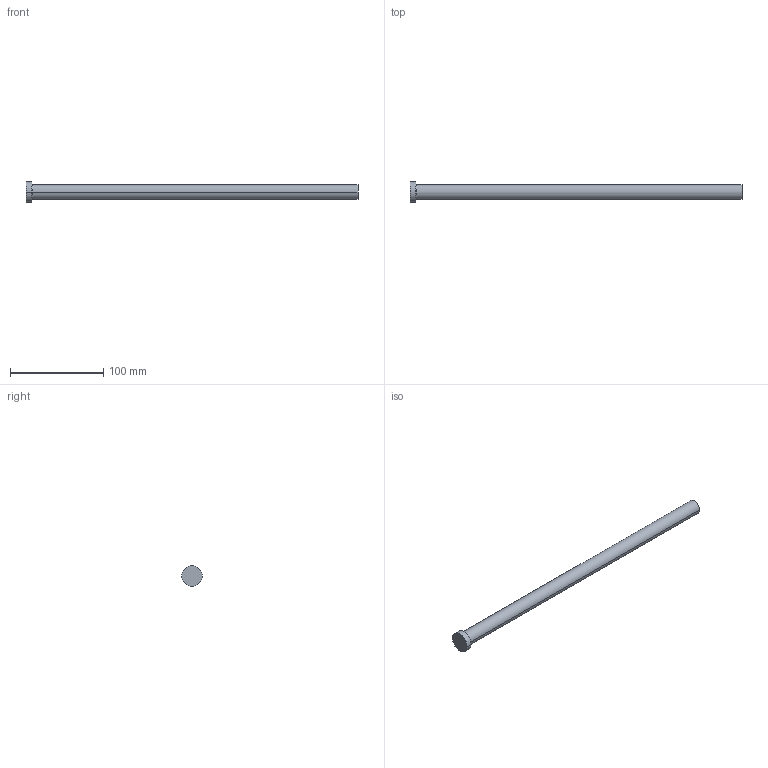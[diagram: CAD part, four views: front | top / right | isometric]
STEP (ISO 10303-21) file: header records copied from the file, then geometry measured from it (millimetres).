
FILE_DESCRIPTION (( 'STEP AP214' ), '1' );
FILE_NAME ('P37-14.STEP', '2020-03-12T12:07:12', ( '' ), ( '' ), 'SwSTEP 2.0', 'SolidWorks 2018', '' );
FILE_SCHEMA (( 'AUTOMOTIVE_DESIGN' ));
Length unit declared in the file: inch
Products named in the file (1): P37-14
Bounding box: 355.6 x 22.23 x 22.23 mm (x, y, z)
Volume: 71486.5 mm3; surface area: 18599 mm2
Topology: 1 solids, 1 shells, 13 faces, 24 edges, 14 vertices
Faces by surface type: cone 4, cylinder 4, plane 3, torus 2
Entity records: 366 total; most frequent: DIRECTION 68, CARTESIAN_POINT 52, ORIENTED_EDGE 48, AXIS2_PLACEMENT_3D 30, EDGE_CURVE 24, CIRCLE 16, EDGE_LOOP 14, VERTEX_POINT 14
